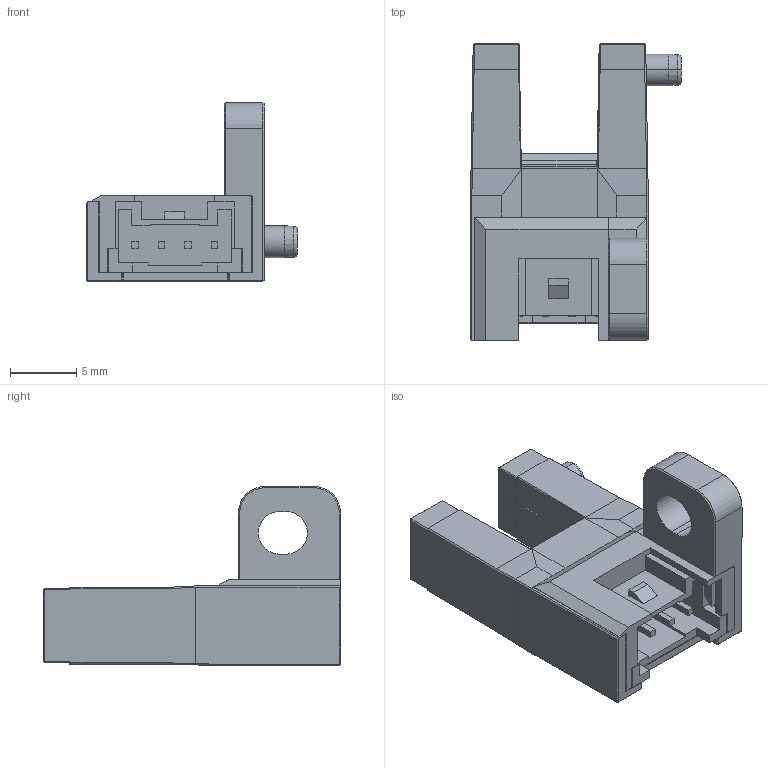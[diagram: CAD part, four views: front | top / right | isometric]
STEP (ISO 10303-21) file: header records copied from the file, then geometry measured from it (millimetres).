
FILE_DESCRIPTION (( 'STEP AP203' ), '1' );
FILE_NAME ('PU-R68.STEP', '2023-06-28T03:47:42', ( 'Windows User' ), ( 'P R C' ), 'SwSTEP 2.0', 'SolidWorks 2022', '' );
FILE_SCHEMA (( 'CONFIG_CONTROL_DESIGN' ));
Length unit declared in the file: millimetre
Products named in the file (7): 插针; SD2008758 PU-R68壳体; SD2008739-PU-68导光柱-A0; 插头; PU-R68; SD2008759 PU-R68插件支架; 插件
Assembly tree (9 placements, depth 3):
  PU-R68
    SD2008758 PU-R68壳体
    SD2008739-PU-68导光柱-A0
    SD2008759 PU-R68插件支架
    插头
      插件
      插针  x4
Bounding box: 15.9 x 22.4 x 13.5 mm (x, y, z)
Volume: 1121.6 mm3; surface area: 2584.7 mm2
Topology: 8 solids, 8 shells, 438 faces, 1173 edges, 766 vertices
Faces by surface type: plane 391, cylinder 36, cone 9, torus 2
Entity records: 13807 total; most frequent: CARTESIAN_POINT 2342, ORIENTED_EDGE 2274, DIRECTION 2077, EDGE_CURVE 1137, VECTOR 1043, LINE 1043, VERTEX_POINT 742, AXIS2_PLACEMENT_3D 517
